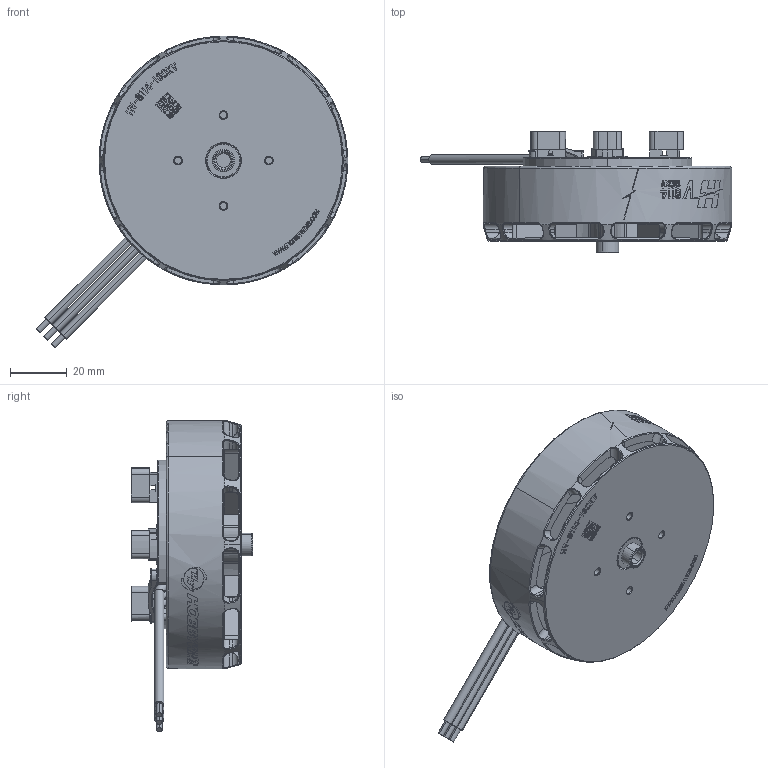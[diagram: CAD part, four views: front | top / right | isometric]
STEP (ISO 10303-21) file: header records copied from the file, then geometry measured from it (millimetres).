
FILE_DESCRIPTION (( 'STEP AP203' ), '1' );
FILE_NAME ('305310280A1-8114单电机总装-离心风扇2.STEP', '2023-08-07T08:20:30', ( '' ), ( '' ), 'SwSTEP 2.0', 'SolidWorks 2021', '' );
FILE_SCHEMA (( 'CONFIG_CONTROL_DESIGN' ));
Products named in the file (1): 305310280A1-8114单电机总装-离心风扇2
Bounding box: 109.87 x 42.7 x 109.87 mm (x, y, z)
Volume: 116802.6 mm3; surface area: 43701.7 mm2
Topology: 7 solids, 10 shells, 2159 faces, 5918 edges, 3857 vertices
Faces by surface type: plane 1081, bspline 522, cylinder 408, cone 130, torus 18
Entity records: 95029 total; most frequent: CARTESIAN_POINT 44627, ORIENTED_EDGE 11812, DIRECTION 8311, EDGE_CURVE 5906, VERTEX_POINT 3857, LINE 3043, VECTOR 3043, AXIS2_PLACEMENT_3D 2634
